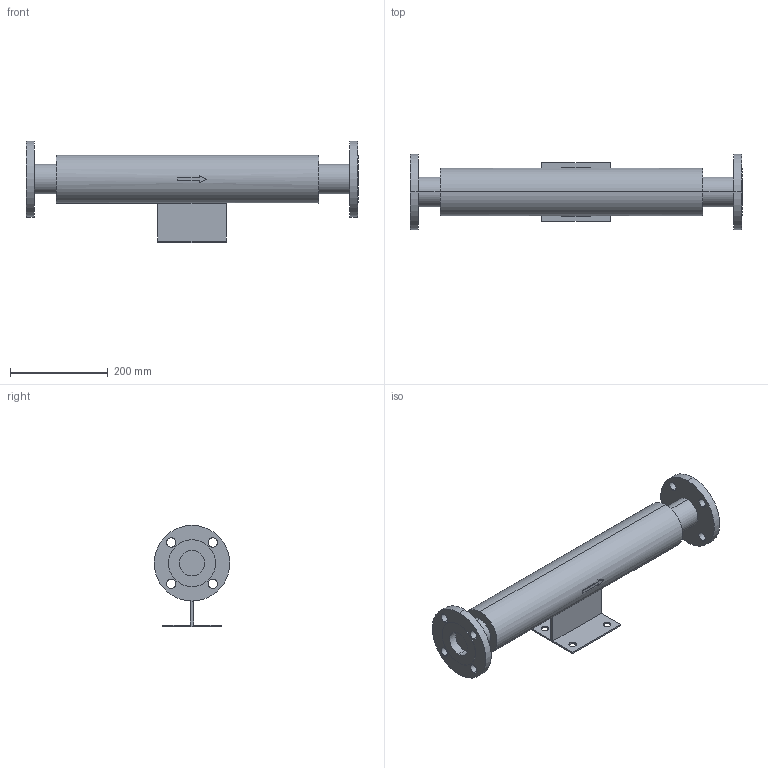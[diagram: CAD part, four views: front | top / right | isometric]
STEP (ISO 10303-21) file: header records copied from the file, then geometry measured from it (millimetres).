
FILE_DESCRIPTION( (''), '2;1');
FILE_NAME ('PC1027.10420.EB-2J　50A_2405.stp','2025-07-29T14:16:05',(''),(''),'spGate 20.6.3 (****-****-****-****)','','');
FILE_SCHEMA (('AUTOMOTIVE_DESIGN'));
Length unit declared in the file: millimetre
Bounding box: 680 x 155 x 207.5 mm (x, y, z)
Volume: 5015780.3 mm3; surface area: 346177.8 mm2
Topology: 1 solids, 1 shells, 77 faces, 194 edges, 130 vertices
Faces by surface type: cylinder 42, plane 35
Entity records: 3921 total; most frequent: CARTESIAN_POINT 451, DIRECTION 396, ORIENTED_EDGE 388, COLOUR_RGB 272, PRESENTATION_STYLE_ASSIGNMENT 272, STYLED_ITEM 272, EDGE_CURVE 194, DRAUGHTING_PRE_DEFINED_CURVE_FONT 194
